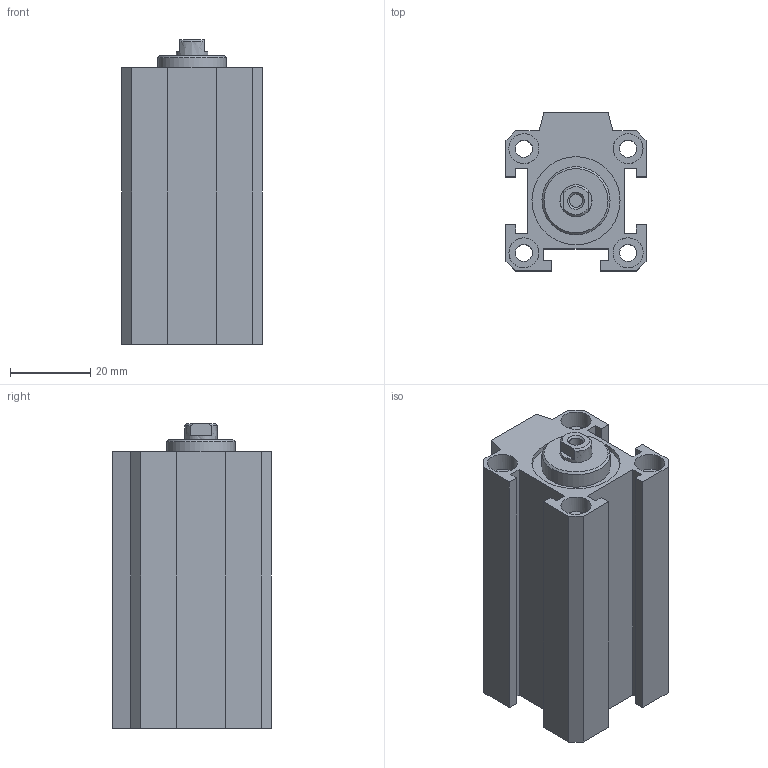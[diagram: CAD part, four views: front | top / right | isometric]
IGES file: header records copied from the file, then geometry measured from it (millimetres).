
Global section: file name: 1511_20_0035; native system: Autodesk Inventor 2014; preprocessor: unknown; author: A. Manieri; date: 20160824.110338; units: millimetre
Bounding box: 35 x 39.5 x 76 mm (x, y, z)
Volume: 56652.7 mm3; surface area: 27661 mm2
Topology: 2 solids, 2 shells, 91 faces, 233 edges, 164 vertices
Faces by surface type: bspline 91
